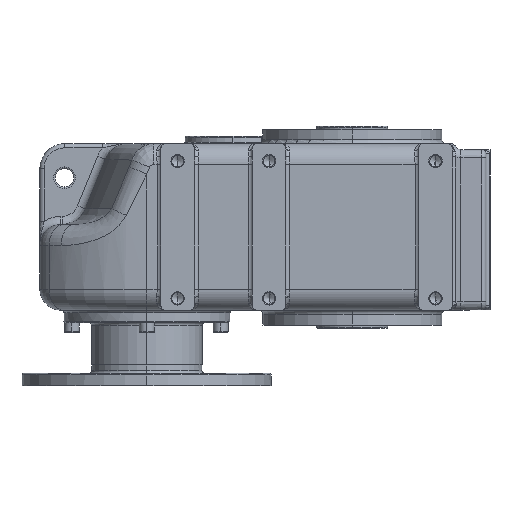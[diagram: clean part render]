
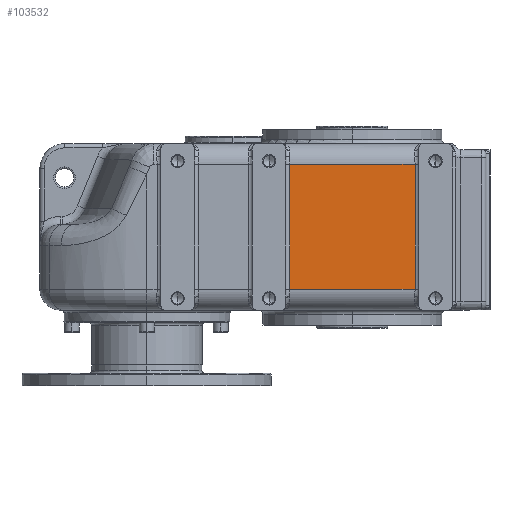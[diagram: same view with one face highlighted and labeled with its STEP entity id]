
A CAD part, left-side view. The second image highlights one B-rep face of the part: STEP entity #103532.
In plain terms, the highlighted planar face has unit normal (-1, 0, 0).
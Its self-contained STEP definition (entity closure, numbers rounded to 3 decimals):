
#2170 = ORIENTED_EDGE ( 'NONE', *, *, #113831, .T. ) ;
#5714 = CARTESIAN_POINT ( 'NONE',  ( -162., 75.417, 25. ) ) ;
#15591 = VERTEX_POINT ( 'NONE', #109642 ) ;
#20408 = EDGE_LOOP ( 'NONE', ( #113242, #112437, #2170, #22985 ) ) ;
#21549 = EDGE_CURVE ( 'NONE', #15591, #113271, #109853, .T. ) ;
#22985 = ORIENTED_EDGE ( 'NONE', *, *, #21549, .T. ) ;
#52840 = VERTEX_POINT ( 'NONE', #5714 ) ;
#78657 = DIRECTION ( 'NONE',  ( 0., 1., 0. ) ) ;
#78658 = DIRECTION ( 'NONE',  ( 1., 0., 0. ) ) ;
#78659 = CARTESIAN_POINT ( 'NONE',  ( -162., 247., 200. ) ) ;
#78660 = AXIS2_PLACEMENT_3D ( 'NONE', #78659, #78658, #78657 ) ;
#78697 = FACE_OUTER_BOUND ( 'NONE', #20408, .T. ) ;
#78702 = PLANE ( 'NONE',  #78660 ) ;
#80468 = DIRECTION ( 'NONE',  ( 0., 0., -1. ) ) ;
#80469 = VECTOR ( 'NONE', #80468, 1000. ) ;
#80470 = CARTESIAN_POINT ( 'NONE',  ( -162., 75.417, 200. ) ) ;
#80471 = LINE ( 'NONE', #80470, #80469 ) ;
#80494 = DIRECTION ( 'NONE',  ( 0., 1., 0. ) ) ;
#80495 = VECTOR ( 'NONE', #80494, 1000. ) ;
#80496 = CARTESIAN_POINT ( 'NONE',  ( -162., 85., 175. ) ) ;
#80497 = LINE ( 'NONE', #80496, #80495 ) ;
#81907 = CARTESIAN_POINT ( 'NONE',  ( -162., -75.417, 175. ) ) ;
#97847 = CARTESIAN_POINT ( 'NONE',  ( -162., 75.417, 175. ) ) ;
#100897 = DIRECTION ( 'NONE',  ( 0., -1., 0. ) ) ;
#100899 = VECTOR ( 'NONE', #100897, 1000. ) ;
#100900 = CARTESIAN_POINT ( 'NONE',  ( -162., 247., 25. ) ) ;
#100902 = LINE ( 'NONE', #100900, #100899 ) ;
#103532 = ADVANCED_FACE ( 'NONE', ( #78697 ), #78702, .F. ) ;
#109642 = CARTESIAN_POINT ( 'NONE',  ( -162., -75.417, 25. ) ) ;
#109849 = VECTOR ( 'NONE', #110117, 1000. ) ;
#109851 = CARTESIAN_POINT ( 'NONE',  ( -162., -75.417, 200. ) ) ;
#109853 = LINE ( 'NONE', #109851, #109849 ) ;
#110117 = DIRECTION ( 'NONE',  ( 0., 0., 1. ) ) ;
#111862 = EDGE_CURVE ( 'NONE', #113777, #52840, #80471, .T. ) ;
#112437 = ORIENTED_EDGE ( 'NONE', *, *, #111862, .T. ) ;
#113242 = ORIENTED_EDGE ( 'NONE', *, *, #113252, .T. ) ;
#113252 = EDGE_CURVE ( 'NONE', #113271, #113777, #80497, .T. ) ;
#113271 = VERTEX_POINT ( 'NONE', #81907 ) ;
#113777 = VERTEX_POINT ( 'NONE', #97847 ) ;
#113831 = EDGE_CURVE ( 'NONE', #52840, #15591, #100902, .T. ) ;
